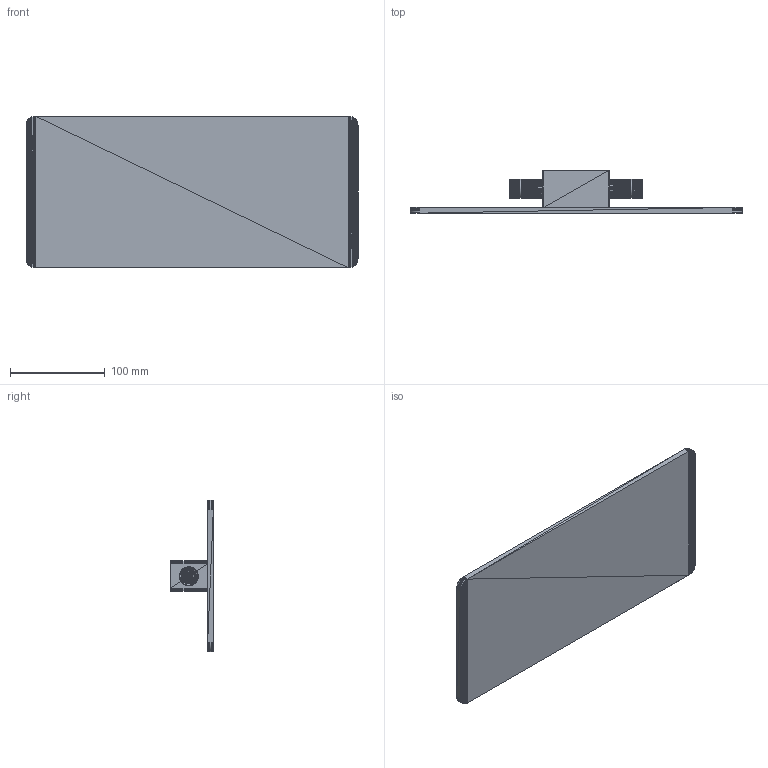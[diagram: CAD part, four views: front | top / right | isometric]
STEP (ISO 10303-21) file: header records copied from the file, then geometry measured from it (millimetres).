
FILE_DESCRIPTION(('FreeCAD Model'),'2;1');
FILE_NAME('Open CASCADE Shape Model','2022-11-29T23:08:56',('Author'),( ''),'Open CASCADE STEP processor 7.6','FreeCAD','Unknown');
FILE_SCHEMA(('AUTOMOTIVE_DESIGN { 1 0 10303 214 1 1 1 1 }'));
Length unit declared in the file: millimetre
Products named in the file (106): Unnamed; Mesh2243; Mesh001001 (Solid); Mesh002001 (Solid); Mesh003001 (Solid); Mesh004001 (Solid); Mesh005001 (Solid); Mesh006001 (Solid); Mesh007001 (Solid); Mesh008001 (Solid); Mesh009001 (Solid); Mesh010001 (Solid); Mesh011001 (Solid); Mesh012001 (Solid); Mesh013001 (Solid); Mesh014001 (Solid); Mesh015001 (Solid); Mesh016001 (Solid); Mesh017001 (Solid); Mesh018001 (Solid); Mesh019001 (Solid); Mesh020001 (Solid); Mesh021001 (Solid); Mesh022001 (Solid); Mesh023001 (Solid); Mesh024001 (Solid); Mesh025001 (Solid); Mesh026001 (Solid); Mesh027001 (Solid); Mesh028001 (Solid); Mesh029001 (Solid); Mesh030001 (Solid); Mesh031001 (Solid); Mesh032001 (Solid); Mesh033001 (Solid); Mesh034001 (Solid); Mesh035001 (Solid); Mesh036001 (Solid); Mesh037001 (Solid); Mesh038001 (Solid)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
Assembly tree (105 placements, depth 2):
  Unnamed
    Mesh2243
    Mesh001001 (Solid)
    Mesh002001 (Solid)
    Mesh003001 (Solid)
    Mesh004001 (Solid)
    Mesh005001 (Solid)
    Mesh006001 (Solid)
    Mesh007001 (Solid)
    Mesh008001 (Solid)
    Mesh009001 (Solid)
    Mesh010001 (Solid)
    Mesh011001 (Solid)
    Mesh012001 (Solid)
    Mesh013001 (Solid)
    Mesh014001 (Solid)
    Mesh015001 (Solid)
    Mesh016001 (Solid)
    Mesh017001 (Solid)
    Mesh018001 (Solid)
    Mesh019001 (Solid)
    Mesh020001 (Solid)
    Mesh021001 (Solid)
    Mesh022001 (Solid)
    Mesh023001 (Solid)
    Mesh024001 (Solid)
    Mesh025001 (Solid)
    Mesh026001 (Solid)
    Mesh027001 (Solid)
    Mesh028001 (Solid)
    Mesh029001 (Solid)
    Mesh030001 (Solid)
    Mesh031001 (Solid)
    Mesh032001 (Solid)
    Mesh033001 (Solid)
    Mesh034001 (Solid)
    Mesh035001 (Solid)
    Mesh036001 (Solid)
    Mesh037001 (Solid)
    Mesh038001 (Solid)
    Mesh039001 (Solid)
    Mesh040001 (Solid)
    Mesh041001 (Solid)
    Mesh042001 (Solid)
    Mesh043001 (Solid)
    Mesh044001 (Solid)
    Mesh045001 (Solid)
    Mesh046001 (Solid)
    Mesh047001 (Solid)
    Mesh048001 (Solid)
    Mesh1117001 (Solid)
    Mesh1118001 (Solid)
    Mesh1120011 (Solid)
    Mesh1121001 (Solid)
    Mesh1122001 (Solid)
    Mesh1123001 (Solid)
    Mesh1124001 (Solid)
    Mesh1125001 (Solid)
    Mesh1126001 (Solid)
    Mesh1127001 (Solid)
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Bounding box: 350 x 45 x 160 mm (x, y, z)
Volume: 335911.7 mm3; surface area: 148179 mm2
Topology: 29 solids, 113 shells, 11360 faces, 17894 edges, 6614 vertices
Faces by surface type: plane 11360
Entity records: 453816 total; most frequent: DIRECTION 74752, CARTESIAN_POINT 70460, LINE 51820, VECTOR 51820, ORIENTED_EDGE 34220, PCURVE 34206, DEFINITIONAL_REPRESENTATION 34206, EDGE_CURVE 17894
